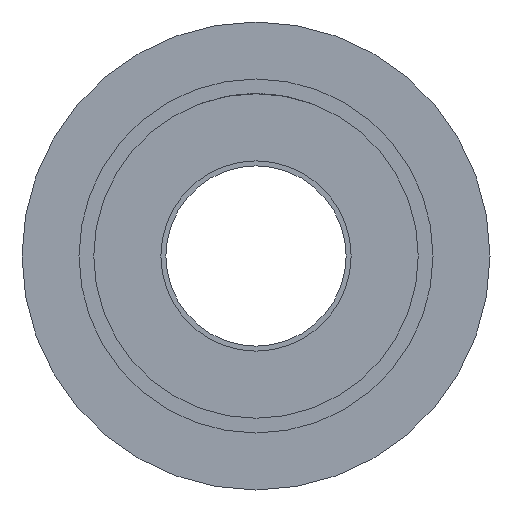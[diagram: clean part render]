
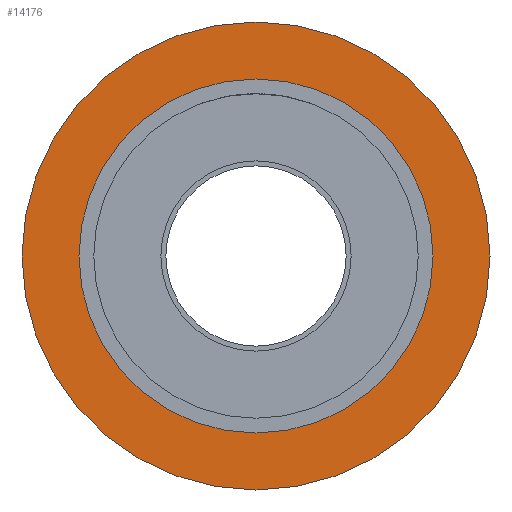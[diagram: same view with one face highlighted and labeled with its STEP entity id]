
A CAD part, front view. The second image highlights one B-rep face of the part: STEP entity #14176.
In plain terms, the highlighted planar face has unit normal (0, -1, 0).
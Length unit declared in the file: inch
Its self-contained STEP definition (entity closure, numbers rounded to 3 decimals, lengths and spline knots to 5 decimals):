
#14142=CARTESIAN_POINT('',(7.38189,13.77953,0.0));
#14143=VERTEX_POINT('',#14142);
#14144=CARTESIAN_POINT('',(0.0,13.77953,0.0));
#14145=DIRECTION('',(0.0,-1.0,0.0));
#14146=DIRECTION('',(1.0,0.0,0.0));
#14147=AXIS2_PLACEMENT_3D('',#14144,#14145,#14146);
#14148=CIRCLE('',#14147,7.38189);
#14149=EDGE_CURVE('',#14143,#14143,#14148,.T.);
#14157=CARTESIAN_POINT('',(6.48327,13.77953,0.0));
#14158=DIRECTION('',(0.0,-1.0,0.0));
#14159=DIRECTION('',(0.0,0.0,-1.0));
#14160=AXIS2_PLACEMENT_3D('',#14157,#14158,#14159);
#14161=PLANE('',#14160);
#14162=ORIENTED_EDGE('',*,*,#14149,.T.);
#14163=EDGE_LOOP('',(#14162));
#14164=FACE_OUTER_BOUND('',#14163,.T.);
#14165=CARTESIAN_POINT('',(5.58465,13.77953,0.0));
#14166=VERTEX_POINT('',#14165);
#14167=CARTESIAN_POINT('',(0.0,13.77953,0.0));
#14168=DIRECTION('',(0.0,-1.0,0.0));
#14169=DIRECTION('',(1.0,0.0,0.0));
#14170=AXIS2_PLACEMENT_3D('',#14167,#14168,#14169);
#14171=CIRCLE('',#14170,5.58465);
#14172=EDGE_CURVE('',#14166,#14166,#14171,.T.);
#14173=ORIENTED_EDGE('',*,*,#14172,.F.);
#14174=EDGE_LOOP('',(#14173));
#14175=FACE_BOUND('',#14174,.T.);
#14176=ADVANCED_FACE('',(#14164,#14175),#14161,.T.);
